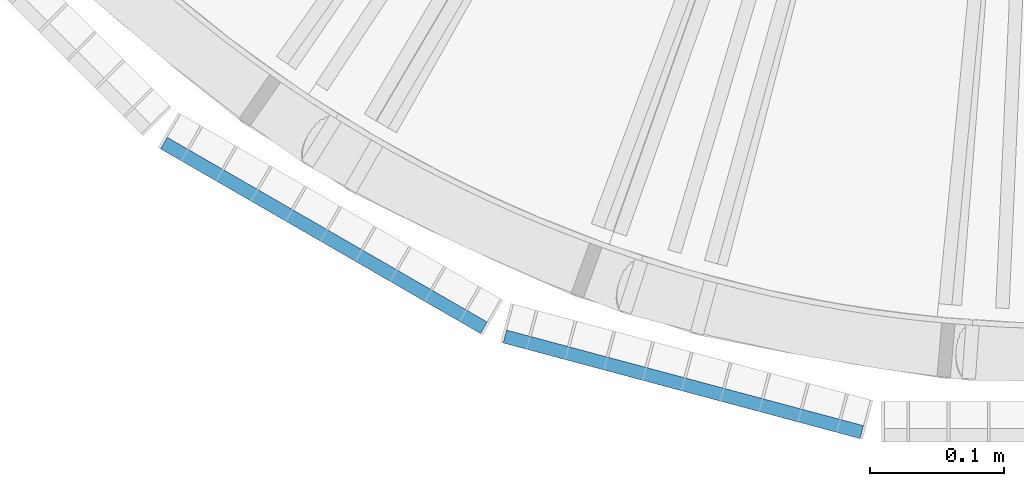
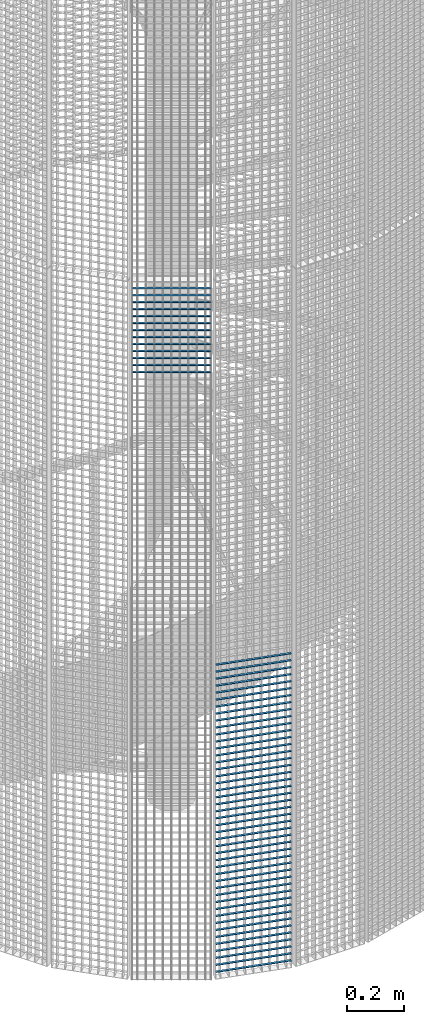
# One storey, part 170 of 1148: 58 beams, 2 elements without a shape of their own.
"""IFC2X3 building model written with IfcOpenShell, lengths in millimetres."""

from ifc_helpers import new_model, si_unit, frame, origin_with_axes, origin_2d_with_axis, place, context, subcontext, project, spatial, rectangle, extrude, material, type_object, element, aggregate, save


model = new_model("IFC2X3")

# Units and contexts
model_context = context("Model", 3, precision=1e-05, world=origin_with_axes())
body_context = subcontext(model_context, "Body", "Model", "MODEL_VIEW")
ifc_project = project(units=[si_unit("LENGTHUNIT", "METRE", prefix="MILLI"), si_unit("AREAUNIT", "SQUARE_METRE"), si_unit("VOLUMEUNIT", "CUBIC_METRE"), si_unit("MASSUNIT", "GRAM", prefix="KILO"), si_unit("TIMEUNIT", "SECOND"), si_unit("PLANEANGLEUNIT", "RADIAN"), si_unit("SOLIDANGLEUNIT", "STERADIAN"), si_unit("THERMODYNAMICTEMPERATUREUNIT", "DEGREE_CELSIUS"), si_unit("LUMINOUSINTENSITYUNIT", "LUMEN")], contexts=[model_context])

# Site, building, storey
site_placement = place(None, origin_with_axes())
site = spatial("IfcSite", under=ifc_project, at=site_placement, Name="Undefined", CompositionType="ELEMENT")
building_placement = place(site_placement, origin_with_axes())
building = spatial("IfcBuilding", under=site, at=building_placement, Name="Undefined", CompositionType="ELEMENT")
storey_placement = place(building_placement, origin_with_axes())
storey = spatial("IfcBuildingStorey", under=building, at=storey_placement, Name="Undefined", CompositionType="ELEMENT", Elevation=0.0)

# Assembly, beams
assembly_1_placement = place(storey_placement, origin_with_axes())
assembly_1 = element("IfcElementAssembly", 1, at=assembly_1_placement, inside=storey, Name="BORDURE", AssemblyPlace="NOTDEFINED", PredefinedType="NOTDEFINED")
ifc_material = material(Name="STEEL/S235JR")
beam_type = type_object("IfcBeamType", Name="PL2*10", PredefinedType="NOTDEFINED")
beam_1_placement = place(assembly_1_placement, frame((-421.483733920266, -1039.82309522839, 1350.0), z_axis=(-0.258819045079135, -0.965925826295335, 0.0), x_axis=(0.965925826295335, -0.258819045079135, 0.0)))
beam_1 = element("IfcBeam", 2, at=beam_1_placement, type_object=beam_type, material=ifc_material, Name="ENTRETOISE", context=body_context, shape_type="SweptSolid", body=[
    extrude(rectangle(XDim=2.0, YDim=10.0, at=origin_2d_with_axis()), frame((275.999999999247, 9.09494701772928e-13, 1.53210777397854e-14), z_axis=(-1.0, 0.0, 0.0), x_axis=(0.0, -1.0, 0.0)), (0.0, 0.0, 1.0), 276.0),
])
beam_2_placement = place(assembly_1_placement, frame((-421.483733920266, -1039.82309522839, 1320.0), z_axis=(-0.258819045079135, -0.965925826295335, 0.0), x_axis=(0.965925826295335, -0.258819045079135, 0.0)))
beam_2 = element("IfcBeam", 3, at=beam_2_placement, type_object=beam_type, material=ifc_material, Name="ENTRETOISE", context=body_context, shape_type="SweptSolid", body=[
    extrude(rectangle(XDim=2.0, YDim=10.0, at=origin_2d_with_axis()), frame((275.999999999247, 9.09494701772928e-13, 1.53210777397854e-14), z_axis=(-1.0, 0.0, 0.0), x_axis=(0.0, -1.0, 0.0)), (0.0, 0.0, 1.0), 276.0),
])
beam_3_placement = place(assembly_1_placement, frame((-421.483733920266, -1039.82309522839, 1290.0), z_axis=(-0.258819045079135, -0.965925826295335, 0.0), x_axis=(0.965925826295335, -0.258819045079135, 0.0)))
beam_3 = element("IfcBeam", 4, at=beam_3_placement, type_object=beam_type, material=ifc_material, Name="ENTRETOISE", context=body_context, shape_type="SweptSolid", body=[
    extrude(rectangle(XDim=2.0, YDim=10.0, at=origin_2d_with_axis()), frame((275.999999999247, 9.09494701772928e-13, 1.53210777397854e-14), z_axis=(-1.0, 0.0, 0.0), x_axis=(0.0, -1.0, 0.0)), (0.0, 0.0, 1.0), 276.0),
])
beam_4_placement = place(assembly_1_placement, frame((-421.483733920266, -1039.82309522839, 1260.0), z_axis=(-0.258819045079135, -0.965925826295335, 0.0), x_axis=(0.965925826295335, -0.258819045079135, 0.0)))
beam_4 = element("IfcBeam", 5, at=beam_4_placement, type_object=beam_type, material=ifc_material, Name="ENTRETOISE", context=body_context, shape_type="SweptSolid", body=[
    extrude(rectangle(XDim=2.0, YDim=10.0, at=origin_2d_with_axis()), frame((275.999999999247, 9.09494701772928e-13, 1.53210777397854e-14), z_axis=(-1.0, 0.0, 0.0), x_axis=(0.0, -1.0, 0.0)), (0.0, 0.0, 1.0), 276.0),
])
beam_5_placement = place(assembly_1_placement, frame((-421.483733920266, -1039.82309522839, 1230.0), z_axis=(-0.258819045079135, -0.965925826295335, 0.0), x_axis=(0.965925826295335, -0.258819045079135, 0.0)))
beam_5 = element("IfcBeam", 6, at=beam_5_placement, type_object=beam_type, material=ifc_material, Name="ENTRETOISE", context=body_context, shape_type="SweptSolid", body=[
    extrude(rectangle(XDim=2.0, YDim=10.0, at=origin_2d_with_axis()), frame((275.999999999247, 9.09494701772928e-13, 1.53210777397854e-14), z_axis=(-1.0, 0.0, 0.0), x_axis=(0.0, -1.0, 0.0)), (0.0, 0.0, 1.0), 276.0),
])
beam_6_placement = place(assembly_1_placement, frame((-421.483733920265, -1039.82309522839, 1200.0), z_axis=(-0.258819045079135, -0.965925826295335, 0.0), x_axis=(0.965925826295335, -0.258819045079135, 0.0)))
beam_6 = element("IfcBeam", 7, at=beam_6_placement, type_object=beam_type, material=ifc_material, Name="ENTRETOISE", context=body_context, shape_type="SweptSolid", body=[
    extrude(rectangle(XDim=2.0, YDim=10.0, at=origin_2d_with_axis()), frame((275.999999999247, 9.09494701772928e-13, 1.53210777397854e-14), z_axis=(-1.0, 0.0, 0.0), x_axis=(0.0, -1.0, 0.0)), (0.0, 0.0, 1.0), 276.0),
])
beam_7_placement = place(assembly_1_placement, frame((-421.483733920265, -1039.82309522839, 1170.0), z_axis=(-0.258819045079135, -0.965925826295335, 0.0), x_axis=(0.965925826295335, -0.258819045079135, 0.0)))
beam_7 = element("IfcBeam", 8, at=beam_7_placement, type_object=beam_type, material=ifc_material, Name="ENTRETOISE", context=body_context, shape_type="SweptSolid", body=[
    extrude(rectangle(XDim=2.0, YDim=10.0, at=origin_2d_with_axis()), frame((275.999999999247, 9.09494701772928e-13, 1.53210777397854e-14), z_axis=(-1.0, 0.0, 0.0), x_axis=(0.0, -1.0, 0.0)), (0.0, 0.0, 1.0), 276.0),
])
beam_8_placement = place(assembly_1_placement, frame((-421.483733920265, -1039.82309522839, 1140.0), z_axis=(-0.258819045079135, -0.965925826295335, 0.0), x_axis=(0.965925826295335, -0.258819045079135, 0.0)))
beam_8 = element("IfcBeam", 9, at=beam_8_placement, type_object=beam_type, material=ifc_material, Name="ENTRETOISE", context=body_context, shape_type="SweptSolid", body=[
    extrude(rectangle(XDim=2.0, YDim=10.0, at=origin_2d_with_axis()), frame((275.999999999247, 9.09494701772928e-13, 1.53210777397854e-14), z_axis=(-1.0, 0.0, 0.0), x_axis=(0.0, -1.0, 0.0)), (0.0, 0.0, 1.0), 276.0),
])
beam_9_placement = place(assembly_1_placement, frame((-421.483733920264, -1039.82309522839, 719.999999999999), z_axis=(-0.258819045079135, -0.965925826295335, 0.0), x_axis=(0.965925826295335, -0.258819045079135, 0.0)))
beam_9 = element("IfcBeam", 10, at=beam_9_placement, type_object=beam_type, material=ifc_material, Name="ENTRETOISE", context=body_context, shape_type="SweptSolid", body=[
    extrude(rectangle(XDim=2.0, YDim=10.0, at=origin_2d_with_axis()), frame((275.999999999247, 9.09494701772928e-13, 1.53210777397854e-14), z_axis=(-1.0, 0.0, 0.0), x_axis=(0.0, -1.0, 0.0)), (0.0, 0.0, 1.0), 276.0),
])
beam_10_placement = place(assembly_1_placement, frame((-421.483733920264, -1039.82309522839, 689.999999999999), z_axis=(-0.258819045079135, -0.965925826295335, 0.0), x_axis=(0.965925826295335, -0.258819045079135, 0.0)))
beam_10 = element("IfcBeam", 11, at=beam_10_placement, type_object=beam_type, material=ifc_material, Name="ENTRETOISE", context=body_context, shape_type="SweptSolid", body=[
    extrude(rectangle(XDim=2.0, YDim=10.0, at=origin_2d_with_axis()), frame((275.999999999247, 9.09494701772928e-13, 1.53210777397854e-14), z_axis=(-1.0, 0.0, 0.0), x_axis=(0.0, -1.0, 0.0)), (0.0, 0.0, 1.0), 276.0),
])
beam_11_placement = place(assembly_1_placement, frame((-421.483733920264, -1039.82309522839, 749.999999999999), z_axis=(-0.258819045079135, -0.965925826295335, 0.0), x_axis=(0.965925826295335, -0.258819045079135, 0.0)))
beam_11 = element("IfcBeam", 12, at=beam_11_placement, type_object=beam_type, material=ifc_material, Name="ENTRETOISE", context=body_context, shape_type="SweptSolid", body=[
    extrude(rectangle(XDim=2.0, YDim=10.0, at=origin_2d_with_axis()), frame((275.999999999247, 9.09494701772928e-13, 1.53210777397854e-14), z_axis=(-1.0, 0.0, 0.0), x_axis=(0.0, -1.0, 0.0)), (0.0, 0.0, 1.0), 276.0),
])
beam_12_placement = place(assembly_1_placement, frame((-421.483733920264, -1039.82309522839, 659.999999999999), z_axis=(-0.258819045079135, -0.965925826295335, 0.0), x_axis=(0.965925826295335, -0.258819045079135, 0.0)))
beam_12 = element("IfcBeam", 13, at=beam_12_placement, type_object=beam_type, material=ifc_material, Name="ENTRETOISE", context=body_context, shape_type="SweptSolid", body=[
    extrude(rectangle(XDim=2.0, YDim=10.0, at=origin_2d_with_axis()), frame((275.999999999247, 9.09494701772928e-13, 1.53210777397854e-14), z_axis=(-1.0, 0.0, 0.0), x_axis=(0.0, -1.0, 0.0)), (0.0, 0.0, 1.0), 276.0),
])
beam_13_placement = place(assembly_1_placement, frame((-421.483733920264, -1039.82309522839, 629.999999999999), z_axis=(-0.258819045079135, -0.965925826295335, 0.0), x_axis=(0.965925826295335, -0.258819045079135, 0.0)))
beam_13 = element("IfcBeam", 14, at=beam_13_placement, type_object=beam_type, material=ifc_material, Name="ENTRETOISE", context=body_context, shape_type="SweptSolid", body=[
    extrude(rectangle(XDim=2.0, YDim=10.0, at=origin_2d_with_axis()), frame((275.999999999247, 9.09494701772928e-13, 1.53210777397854e-14), z_axis=(-1.0, 0.0, 0.0), x_axis=(0.0, -1.0, 0.0)), (0.0, 0.0, 1.0), 276.0),
])
beam_14_placement = place(assembly_1_placement, frame((-421.483733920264, -1039.82309522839, 779.999999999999), z_axis=(-0.258819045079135, -0.965925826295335, 0.0), x_axis=(0.965925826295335, -0.258819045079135, 0.0)))
beam_14 = element("IfcBeam", 15, at=beam_14_placement, type_object=beam_type, material=ifc_material, Name="ENTRETOISE", context=body_context, shape_type="SweptSolid", body=[
    extrude(rectangle(XDim=2.0, YDim=10.0, at=origin_2d_with_axis()), frame((275.999999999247, 9.09494701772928e-13, 1.53210777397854e-14), z_axis=(-1.0, 0.0, 0.0), x_axis=(0.0, -1.0, 0.0)), (0.0, 0.0, 1.0), 276.0),
])
beam_15_placement = place(assembly_1_placement, frame((-421.483733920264, -1039.82309522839, 599.999999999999), z_axis=(-0.258819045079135, -0.965925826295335, 0.0), x_axis=(0.965925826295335, -0.258819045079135, 0.0)))
beam_15 = element("IfcBeam", 16, at=beam_15_placement, type_object=beam_type, material=ifc_material, Name="ENTRETOISE", context=body_context, shape_type="SweptSolid", body=[
    extrude(rectangle(XDim=2.0, YDim=10.0, at=origin_2d_with_axis()), frame((275.999999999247, 9.09494701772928e-13, 1.53210777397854e-14), z_axis=(-1.0, 0.0, 0.0), x_axis=(0.0, -1.0, 0.0)), (0.0, 0.0, 1.0), 276.0),
])
beam_16_placement = place(assembly_1_placement, frame((-421.483733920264, -1039.82309522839, 809.999999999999), z_axis=(-0.258819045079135, -0.965925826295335, 0.0), x_axis=(0.965925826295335, -0.258819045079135, 0.0)))
beam_16 = element("IfcBeam", 17, at=beam_16_placement, type_object=beam_type, material=ifc_material, Name="ENTRETOISE", context=body_context, shape_type="SweptSolid", body=[
    extrude(rectangle(XDim=2.0, YDim=10.0, at=origin_2d_with_axis()), frame((275.999999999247, 9.09494701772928e-13, 1.53210777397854e-14), z_axis=(-1.0, 0.0, 0.0), x_axis=(0.0, -1.0, 0.0)), (0.0, 0.0, 1.0), 276.0),
])
beam_17_placement = place(assembly_1_placement, frame((-421.483733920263, -1039.82309522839, 569.999999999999), z_axis=(-0.258819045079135, -0.965925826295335, 0.0), x_axis=(0.965925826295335, -0.258819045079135, 0.0)))
beam_17 = element("IfcBeam", 18, at=beam_17_placement, type_object=beam_type, material=ifc_material, Name="ENTRETOISE", context=body_context, shape_type="SweptSolid", body=[
    extrude(rectangle(XDim=2.0, YDim=10.0, at=origin_2d_with_axis()), frame((275.999999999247, 9.09494701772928e-13, 1.53210777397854e-14), z_axis=(-1.0, 0.0, 0.0), x_axis=(0.0, -1.0, 0.0)), (0.0, 0.0, 1.0), 276.0),
])
beam_18_placement = place(assembly_1_placement, frame((-421.483733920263, -1039.82309522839, 539.999999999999), z_axis=(-0.258819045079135, -0.965925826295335, 0.0), x_axis=(0.965925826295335, -0.258819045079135, 0.0)))
beam_18 = element("IfcBeam", 19, at=beam_18_placement, type_object=beam_type, material=ifc_material, Name="ENTRETOISE", context=body_context, shape_type="SweptSolid", body=[
    extrude(rectangle(XDim=2.0, YDim=10.0, at=origin_2d_with_axis()), frame((275.999999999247, 9.09494701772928e-13, 1.53210777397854e-14), z_axis=(-1.0, 0.0, 0.0), x_axis=(0.0, -1.0, 0.0)), (0.0, 0.0, 1.0), 276.0),
])
beam_19_placement = place(assembly_1_placement, frame((-421.483733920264, -1039.82309522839, 839.999999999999), z_axis=(-0.258819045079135, -0.965925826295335, 0.0), x_axis=(0.965925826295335, -0.258819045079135, 0.0)))
beam_19 = element("IfcBeam", 20, at=beam_19_placement, type_object=beam_type, material=ifc_material, Name="ENTRETOISE", context=body_context, shape_type="SweptSolid", body=[
    extrude(rectangle(XDim=2.0, YDim=10.0, at=origin_2d_with_axis()), frame((275.999999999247, 9.09494701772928e-13, 1.53210777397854e-14), z_axis=(-1.0, 0.0, 0.0), x_axis=(0.0, -1.0, 0.0)), (0.0, 0.0, 1.0), 276.0),
])
beam_20_placement = place(assembly_1_placement, frame((-421.483733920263, -1039.82309522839, 509.999999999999), z_axis=(-0.258819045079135, -0.965925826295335, 0.0), x_axis=(0.965925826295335, -0.258819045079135, 0.0)))
beam_20 = element("IfcBeam", 21, at=beam_20_placement, type_object=beam_type, material=ifc_material, Name="ENTRETOISE", context=body_context, shape_type="SweptSolid", body=[
    extrude(rectangle(XDim=2.0, YDim=10.0, at=origin_2d_with_axis()), frame((275.999999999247, 9.09494701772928e-13, 1.53210777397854e-14), z_axis=(-1.0, 0.0, 0.0), x_axis=(0.0, -1.0, 0.0)), (0.0, 0.0, 1.0), 276.0),
])
beam_21_placement = place(assembly_1_placement, frame((-421.483733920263, -1039.82309522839, 479.999999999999), z_axis=(-0.258819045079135, -0.965925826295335, 0.0), x_axis=(0.965925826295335, -0.258819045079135, 0.0)))
beam_21 = element("IfcBeam", 22, at=beam_21_placement, type_object=beam_type, material=ifc_material, Name="ENTRETOISE", context=body_context, shape_type="SweptSolid", body=[
    extrude(rectangle(XDim=2.0, YDim=10.0, at=origin_2d_with_axis()), frame((275.999999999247, 9.09494701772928e-13, 1.53210777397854e-14), z_axis=(-1.0, 0.0, 0.0), x_axis=(0.0, -1.0, 0.0)), (0.0, 0.0, 1.0), 276.0),
])
beam_22_placement = place(assembly_1_placement, frame((-421.483733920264, -1039.82309522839, 869.999999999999), z_axis=(-0.258819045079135, -0.965925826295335, 0.0), x_axis=(0.965925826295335, -0.258819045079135, 0.0)))
beam_22 = element("IfcBeam", 23, at=beam_22_placement, type_object=beam_type, material=ifc_material, Name="ENTRETOISE", context=body_context, shape_type="SweptSolid", body=[
    extrude(rectangle(XDim=2.0, YDim=10.0, at=origin_2d_with_axis()), frame((275.999999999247, 9.09494701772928e-13, 1.53210777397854e-14), z_axis=(-1.0, 0.0, 0.0), x_axis=(0.0, -1.0, 0.0)), (0.0, 0.0, 1.0), 276.0),
])
beam_23_placement = place(assembly_1_placement, frame((-421.483733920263, -1039.82309522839, 449.999999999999), z_axis=(-0.258819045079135, -0.965925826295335, 0.0), x_axis=(0.965925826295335, -0.258819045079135, 0.0)))
beam_23 = element("IfcBeam", 24, at=beam_23_placement, type_object=beam_type, material=ifc_material, Name="ENTRETOISE", context=body_context, shape_type="SweptSolid", body=[
    extrude(rectangle(XDim=2.0, YDim=10.0, at=origin_2d_with_axis()), frame((275.999999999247, 9.09494701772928e-13, 1.53210777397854e-14), z_axis=(-1.0, 0.0, 0.0), x_axis=(0.0, -1.0, 0.0)), (0.0, 0.0, 1.0), 276.0),
])
beam_24_placement = place(assembly_1_placement, frame((-421.483733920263, -1039.82309522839, 419.999999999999), z_axis=(-0.258819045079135, -0.965925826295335, 0.0), x_axis=(0.965925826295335, -0.258819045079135, 0.0)))
beam_24 = element("IfcBeam", 25, at=beam_24_placement, type_object=beam_type, material=ifc_material, Name="ENTRETOISE", context=body_context, shape_type="SweptSolid", body=[
    extrude(rectangle(XDim=2.0, YDim=10.0, at=origin_2d_with_axis()), frame((275.999999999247, 9.09494701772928e-13, 1.53210777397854e-14), z_axis=(-1.0, 0.0, 0.0), x_axis=(0.0, -1.0, 0.0)), (0.0, 0.0, 1.0), 276.0),
])
beam_25_placement = place(assembly_1_placement, frame((-421.483733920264, -1039.82309522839, 899.999999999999), z_axis=(-0.258819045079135, -0.965925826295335, 0.0), x_axis=(0.965925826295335, -0.258819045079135, 0.0)))
beam_25 = element("IfcBeam", 26, at=beam_25_placement, type_object=beam_type, material=ifc_material, Name="ENTRETOISE", context=body_context, shape_type="SweptSolid", body=[
    extrude(rectangle(XDim=2.0, YDim=10.0, at=origin_2d_with_axis()), frame((275.999999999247, 9.09494701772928e-13, 1.53210777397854e-14), z_axis=(-1.0, 0.0, 0.0), x_axis=(0.0, -1.0, 0.0)), (0.0, 0.0, 1.0), 276.0),
])
beam_26_placement = place(assembly_1_placement, frame((-421.483733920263, -1039.82309522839, 389.999999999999), z_axis=(-0.258819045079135, -0.965925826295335, 0.0), x_axis=(0.965925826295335, -0.258819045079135, 0.0)))
beam_26 = element("IfcBeam", 27, at=beam_26_placement, type_object=beam_type, material=ifc_material, Name="ENTRETOISE", context=body_context, shape_type="SweptSolid", body=[
    extrude(rectangle(XDim=2.0, YDim=10.0, at=origin_2d_with_axis()), frame((275.999999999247, 9.09494701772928e-13, 1.53210777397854e-14), z_axis=(-1.0, 0.0, 0.0), x_axis=(0.0, -1.0, 0.0)), (0.0, 0.0, 1.0), 276.0),
])
beam_27_placement = place(assembly_1_placement, frame((-421.483733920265, -1039.82309522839, 929.999999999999), z_axis=(-0.258819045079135, -0.965925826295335, 0.0), x_axis=(0.965925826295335, -0.258819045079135, 0.0)))
beam_27 = element("IfcBeam", 28, at=beam_27_placement, type_object=beam_type, material=ifc_material, Name="ENTRETOISE", context=body_context, shape_type="SweptSolid", body=[
    extrude(rectangle(XDim=2.0, YDim=10.0, at=origin_2d_with_axis()), frame((275.999999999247, 9.09494701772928e-13, 1.53210777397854e-14), z_axis=(-1.0, 0.0, 0.0), x_axis=(0.0, -1.0, 0.0)), (0.0, 0.0, 1.0), 276.0),
])
beam_28_placement = place(assembly_1_placement, frame((-421.483733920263, -1039.82309522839, 359.999999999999), z_axis=(-0.258819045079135, -0.965925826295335, 0.0), x_axis=(0.965925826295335, -0.258819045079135, 0.0)))
beam_28 = element("IfcBeam", 29, at=beam_28_placement, type_object=beam_type, material=ifc_material, Name="ENTRETOISE", context=body_context, shape_type="SweptSolid", body=[
    extrude(rectangle(XDim=2.0, YDim=10.0, at=origin_2d_with_axis()), frame((275.999999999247, 9.09494701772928e-13, 1.53210777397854e-14), z_axis=(-1.0, 0.0, 0.0), x_axis=(0.0, -1.0, 0.0)), (0.0, 0.0, 1.0), 276.0),
])
beam_29_placement = place(assembly_1_placement, frame((-421.483733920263, -1039.82309522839, 329.999999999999), z_axis=(-0.258819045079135, -0.965925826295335, 0.0), x_axis=(0.965925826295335, -0.258819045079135, 0.0)))
beam_29 = element("IfcBeam", 30, at=beam_29_placement, type_object=beam_type, material=ifc_material, Name="ENTRETOISE", context=body_context, shape_type="SweptSolid", body=[
    extrude(rectangle(XDim=2.0, YDim=10.0, at=origin_2d_with_axis()), frame((275.999999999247, 9.09494701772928e-13, 1.53210777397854e-14), z_axis=(-1.0, 0.0, 0.0), x_axis=(0.0, -1.0, 0.0)), (0.0, 0.0, 1.0), 276.0),
])
beam_30_placement = place(assembly_1_placement, frame((-421.483733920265, -1039.82309522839, 959.999999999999), z_axis=(-0.258819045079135, -0.965925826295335, 0.0), x_axis=(0.965925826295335, -0.258819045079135, 0.0)))
beam_30 = element("IfcBeam", 31, at=beam_30_placement, type_object=beam_type, material=ifc_material, Name="ENTRETOISE", context=body_context, shape_type="SweptSolid", body=[
    extrude(rectangle(XDim=2.0, YDim=10.0, at=origin_2d_with_axis()), frame((275.999999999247, 9.09494701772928e-13, 1.53210777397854e-14), z_axis=(-1.0, 0.0, 0.0), x_axis=(0.0, -1.0, 0.0)), (0.0, 0.0, 1.0), 276.0),
])
beam_31_placement = place(assembly_1_placement, frame((-421.483733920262, -1039.82309522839, 299.999999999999), z_axis=(-0.258819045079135, -0.965925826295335, 0.0), x_axis=(0.965925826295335, -0.258819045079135, 0.0)))
beam_31 = element("IfcBeam", 32, at=beam_31_placement, type_object=beam_type, material=ifc_material, Name="ENTRETOISE", context=body_context, shape_type="SweptSolid", body=[
    extrude(rectangle(XDim=2.0, YDim=10.0, at=origin_2d_with_axis()), frame((275.999999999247, 9.09494701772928e-13, 1.53210777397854e-14), z_axis=(-1.0, 0.0, 0.0), x_axis=(0.0, -1.0, 0.0)), (0.0, 0.0, 1.0), 276.0),
])
beam_32_placement = place(assembly_1_placement, frame((-421.483733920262, -1039.82309522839, 269.999999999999), z_axis=(-0.258819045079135, -0.965925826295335, 0.0), x_axis=(0.965925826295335, -0.258819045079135, 0.0)))
beam_32 = element("IfcBeam", 33, at=beam_32_placement, type_object=beam_type, material=ifc_material, Name="ENTRETOISE", context=body_context, shape_type="SweptSolid", body=[
    extrude(rectangle(XDim=2.0, YDim=10.0, at=origin_2d_with_axis()), frame((275.999999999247, 9.09494701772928e-13, 1.53210777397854e-14), z_axis=(-1.0, 0.0, 0.0), x_axis=(0.0, -1.0, 0.0)), (0.0, 0.0, 1.0), 276.0),
])
beam_33_placement = place(assembly_1_placement, frame((-421.483733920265, -1039.82309522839, 989.999999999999), z_axis=(-0.258819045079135, -0.965925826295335, 0.0), x_axis=(0.965925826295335, -0.258819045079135, 0.0)))
beam_33 = element("IfcBeam", 34, at=beam_33_placement, type_object=beam_type, material=ifc_material, Name="ENTRETOISE", context=body_context, shape_type="SweptSolid", body=[
    extrude(rectangle(XDim=2.0, YDim=10.0, at=origin_2d_with_axis()), frame((275.999999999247, 9.09494701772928e-13, 1.53210777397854e-14), z_axis=(-1.0, 0.0, 0.0), x_axis=(0.0, -1.0, 0.0)), (0.0, 0.0, 1.0), 276.0),
])
beam_34_placement = place(assembly_1_placement, frame((-421.483733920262, -1039.82309522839, 239.999999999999), z_axis=(-0.258819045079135, -0.965925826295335, 0.0), x_axis=(0.965925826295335, -0.258819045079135, 0.0)))
beam_34 = element("IfcBeam", 35, at=beam_34_placement, type_object=beam_type, material=ifc_material, Name="ENTRETOISE", context=body_context, shape_type="SweptSolid", body=[
    extrude(rectangle(XDim=2.0, YDim=10.0, at=origin_2d_with_axis()), frame((275.999999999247, 9.09494701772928e-13, 1.53210777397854e-14), z_axis=(-1.0, 0.0, 0.0), x_axis=(0.0, -1.0, 0.0)), (0.0, 0.0, 1.0), 276.0),
])
beam_35_placement = place(assembly_1_placement, frame((-421.483733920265, -1039.82309522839, 1020.0), z_axis=(-0.258819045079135, -0.965925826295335, 0.0), x_axis=(0.965925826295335, -0.258819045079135, 0.0)))
beam_35 = element("IfcBeam", 36, at=beam_35_placement, type_object=beam_type, material=ifc_material, Name="ENTRETOISE", context=body_context, shape_type="SweptSolid", body=[
    extrude(rectangle(XDim=2.0, YDim=10.0, at=origin_2d_with_axis()), frame((275.999999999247, 9.09494701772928e-13, 1.53210777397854e-14), z_axis=(-1.0, 0.0, 0.0), x_axis=(0.0, -1.0, 0.0)), (0.0, 0.0, 1.0), 276.0),
])
beam_36_placement = place(assembly_1_placement, frame((-421.483733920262, -1039.82309522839, 209.999999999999), z_axis=(-0.258819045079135, -0.965925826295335, 0.0), x_axis=(0.965925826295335, -0.258819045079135, 0.0)))
beam_36 = element("IfcBeam", 37, at=beam_36_placement, type_object=beam_type, material=ifc_material, Name="ENTRETOISE", context=body_context, shape_type="SweptSolid", body=[
    extrude(rectangle(XDim=2.0, YDim=10.0, at=origin_2d_with_axis()), frame((275.999999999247, 9.09494701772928e-13, 1.53210777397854e-14), z_axis=(-1.0, 0.0, 0.0), x_axis=(0.0, -1.0, 0.0)), (0.0, 0.0, 1.0), 276.0),
])
beam_37_placement = place(assembly_1_placement, frame((-421.483733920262, -1039.82309522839, 179.999999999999), z_axis=(-0.258819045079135, -0.965925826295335, 0.0), x_axis=(0.965925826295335, -0.258819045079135, 0.0)))
beam_37 = element("IfcBeam", 38, at=beam_37_placement, type_object=beam_type, material=ifc_material, Name="ENTRETOISE", context=body_context, shape_type="SweptSolid", body=[
    extrude(rectangle(XDim=2.0, YDim=10.0, at=origin_2d_with_axis()), frame((275.999999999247, 9.09494701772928e-13, 1.53210777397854e-14), z_axis=(-1.0, 0.0, 0.0), x_axis=(0.0, -1.0, 0.0)), (0.0, 0.0, 1.0), 276.0),
])
beam_38_placement = place(assembly_1_placement, frame((-421.483733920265, -1039.82309522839, 1050.0), z_axis=(-0.258819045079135, -0.965925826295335, 0.0), x_axis=(0.965925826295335, -0.258819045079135, 0.0)))
beam_38 = element("IfcBeam", 39, at=beam_38_placement, type_object=beam_type, material=ifc_material, Name="ENTRETOISE", context=body_context, shape_type="SweptSolid", body=[
    extrude(rectangle(XDim=2.0, YDim=10.0, at=origin_2d_with_axis()), frame((275.999999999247, 9.09494701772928e-13, 1.53210777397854e-14), z_axis=(-1.0, 0.0, 0.0), x_axis=(0.0, -1.0, 0.0)), (0.0, 0.0, 1.0), 276.0),
])
beam_39_placement = place(assembly_1_placement, frame((-421.483733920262, -1039.82309522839, 149.999999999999), z_axis=(-0.258819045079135, -0.965925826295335, 0.0), x_axis=(0.965925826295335, -0.258819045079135, 0.0)))
beam_39 = element("IfcBeam", 40, at=beam_39_placement, type_object=beam_type, material=ifc_material, Name="ENTRETOISE", context=body_context, shape_type="SweptSolid", body=[
    extrude(rectangle(XDim=2.0, YDim=10.0, at=origin_2d_with_axis()), frame((275.999999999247, 9.09494701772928e-13, 1.53210777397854e-14), z_axis=(-1.0, 0.0, 0.0), x_axis=(0.0, -1.0, 0.0)), (0.0, 0.0, 1.0), 276.0),
])
beam_40_placement = place(assembly_1_placement, frame((-421.483733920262, -1039.82309522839, 119.999999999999), z_axis=(-0.258819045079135, -0.965925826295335, 0.0), x_axis=(0.965925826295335, -0.258819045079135, 0.0)))
beam_40 = element("IfcBeam", 41, at=beam_40_placement, type_object=beam_type, material=ifc_material, Name="ENTRETOISE", context=body_context, shape_type="SweptSolid", body=[
    extrude(rectangle(XDim=2.0, YDim=10.0, at=origin_2d_with_axis()), frame((275.999999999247, 9.09494701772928e-13, 1.53210777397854e-14), z_axis=(-1.0, 0.0, 0.0), x_axis=(0.0, -1.0, 0.0)), (0.0, 0.0, 1.0), 276.0),
])
beam_41_placement = place(assembly_1_placement, frame((-421.483733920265, -1039.82309522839, 1080.0), z_axis=(-0.258819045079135, -0.965925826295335, 0.0), x_axis=(0.965925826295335, -0.258819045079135, 0.0)))
beam_41 = element("IfcBeam", 42, at=beam_41_placement, type_object=beam_type, material=ifc_material, Name="ENTRETOISE", context=body_context, shape_type="SweptSolid", body=[
    extrude(rectangle(XDim=2.0, YDim=10.0, at=origin_2d_with_axis()), frame((275.999999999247, 9.09494701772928e-13, 1.53210777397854e-14), z_axis=(-1.0, 0.0, 0.0), x_axis=(0.0, -1.0, 0.0)), (0.0, 0.0, 1.0), 276.0),
])
beam_42_placement = place(assembly_1_placement, frame((-421.483733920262, -1039.82309522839, 89.9999999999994), z_axis=(-0.258819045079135, -0.965925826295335, 0.0), x_axis=(0.965925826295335, -0.258819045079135, 0.0)))
beam_42 = element("IfcBeam", 43, at=beam_42_placement, type_object=beam_type, material=ifc_material, Name="ENTRETOISE", context=body_context, shape_type="SweptSolid", body=[
    extrude(rectangle(XDim=2.0, YDim=10.0, at=origin_2d_with_axis()), frame((275.999999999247, 9.09494701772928e-13, 1.53210777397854e-14), z_axis=(-1.0, 0.0, 0.0), x_axis=(0.0, -1.0, 0.0)), (0.0, 0.0, 1.0), 276.0),
])
beam_43_placement = place(assembly_1_placement, frame((-421.483733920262, -1039.82309522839, 59.9999999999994), z_axis=(-0.258819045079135, -0.965925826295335, 0.0), x_axis=(0.965925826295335, -0.258819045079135, 0.0)))
beam_43 = element("IfcBeam", 44, at=beam_43_placement, type_object=beam_type, material=ifc_material, Name="ENTRETOISE", context=body_context, shape_type="SweptSolid", body=[
    extrude(rectangle(XDim=2.0, YDim=10.0, at=origin_2d_with_axis()), frame((275.999999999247, 9.09494701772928e-13, 1.53210777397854e-14), z_axis=(-1.0, 0.0, 0.0), x_axis=(0.0, -1.0, 0.0)), (0.0, 0.0, 1.0), 276.0),
])
beam_44_placement = place(assembly_1_placement, frame((-421.483733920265, -1039.82309522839, 1110.0), z_axis=(-0.258819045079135, -0.965925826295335, 0.0), x_axis=(0.965925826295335, -0.258819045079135, 0.0)))
beam_44 = element("IfcBeam", 45, at=beam_44_placement, type_object=beam_type, material=ifc_material, Name="ENTRETOISE", context=body_context, shape_type="SweptSolid", body=[
    extrude(rectangle(XDim=2.0, YDim=10.0, at=origin_2d_with_axis()), frame((275.999999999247, 9.09494701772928e-13, 1.53210777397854e-14), z_axis=(-1.0, 0.0, 0.0), x_axis=(0.0, -1.0, 0.0)), (0.0, 0.0, 1.0), 276.0),
])
beam_45_placement = place(assembly_1_placement, frame((-421.48373392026, -1039.82309522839, 29.9999999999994), z_axis=(-0.258819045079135, -0.965925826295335, 0.0), x_axis=(0.965925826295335, -0.258819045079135, 0.0)))
beam_45 = element("IfcBeam", 46, at=beam_45_placement, type_object=beam_type, material=ifc_material, Name="ENTRETOISE", context=body_context, shape_type="SweptSolid", body=[
    extrude(rectangle(XDim=2.0, YDim=10.0, at=origin_2d_with_axis()), frame((275.999999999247, 9.09494701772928e-13, 1.53210777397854e-14), z_axis=(-1.0, 0.0, 0.0), x_axis=(0.0, -1.0, 0.0)), (0.0, 0.0, 1.0), 276.0),
])
aggregate(assembly_1, [beam_1, beam_2, beam_3, beam_4, beam_5, beam_6, beam_7, beam_8, beam_9, beam_10, beam_11, beam_12, beam_13, beam_14, beam_15, beam_16, beam_17, beam_18, beam_19, beam_20, beam_21, beam_22, beam_23, beam_24, beam_25, beam_26, beam_27, beam_28, beam_29, beam_30, beam_31, beam_32, beam_33, beam_34, beam_35, beam_36, beam_37, beam_38, beam_39, beam_40, beam_41, beam_42, beam_43, beam_44, beam_45])

assembly_2_placement = place(storey_placement, origin_with_axes())
assembly_2 = element("IfcElementAssembly", 47, at=assembly_2_placement, inside=storey, Name="BORDURE", AssemblyPlace="NOTDEFINED", PredefinedType="NOTDEFINED")
beam_46_placement = place(assembly_2_placement, frame((-676.248044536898, -895.303964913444, 2970.0), z_axis=(-0.49999999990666, -0.866025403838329, 0.0), x_axis=(0.866025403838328, -0.49999999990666, 0.0)))
beam_46 = element("IfcBeam", 48, at=beam_46_placement, type_object=beam_type, material=ifc_material, Name="ENTRETOISE", context=body_context, shape_type="SweptSolid", body=[
    extrude(rectangle(XDim=2.0, YDim=10.0, at=origin_2d_with_axis()), frame((275.999999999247, 9.09494701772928e-13, 1.53210777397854e-14), z_axis=(-1.0, 0.0, 0.0), x_axis=(0.0, -1.0, 0.0)), (0.0, 0.0, 1.0), 276.0),
])
beam_47_placement = place(assembly_2_placement, frame((-676.248044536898, -895.303964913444, 2940.0), z_axis=(-0.49999999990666, -0.866025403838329, 0.0), x_axis=(0.866025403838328, -0.49999999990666, 0.0)))
beam_47 = element("IfcBeam", 49, at=beam_47_placement, type_object=beam_type, material=ifc_material, Name="ENTRETOISE", context=body_context, shape_type="SweptSolid", body=[
    extrude(rectangle(XDim=2.0, YDim=10.0, at=origin_2d_with_axis()), frame((275.999999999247, 9.09494701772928e-13, 1.53210777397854e-14), z_axis=(-1.0, 0.0, 0.0), x_axis=(0.0, -1.0, 0.0)), (0.0, 0.0, 1.0), 276.0),
])
beam_48_placement = place(assembly_2_placement, frame((-676.248044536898, -895.303964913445, 2910.0), z_axis=(-0.49999999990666, -0.866025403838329, 0.0), x_axis=(0.866025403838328, -0.49999999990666, 0.0)))
beam_48 = element("IfcBeam", 50, at=beam_48_placement, type_object=beam_type, material=ifc_material, Name="ENTRETOISE", context=body_context, shape_type="SweptSolid", body=[
    extrude(rectangle(XDim=2.0, YDim=10.0, at=origin_2d_with_axis()), frame((275.999999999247, 9.09494701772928e-13, 1.53210777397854e-14), z_axis=(-1.0, 0.0, 0.0), x_axis=(0.0, -1.0, 0.0)), (0.0, 0.0, 1.0), 276.0),
])
beam_49_placement = place(assembly_2_placement, frame((-676.248044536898, -895.303964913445, 2880.0), z_axis=(-0.49999999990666, -0.866025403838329, 0.0), x_axis=(0.866025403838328, -0.49999999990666, 0.0)))
beam_49 = element("IfcBeam", 51, at=beam_49_placement, type_object=beam_type, material=ifc_material, Name="ENTRETOISE", context=body_context, shape_type="SweptSolid", body=[
    extrude(rectangle(XDim=2.0, YDim=10.0, at=origin_2d_with_axis()), frame((275.999999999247, 9.09494701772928e-13, 1.53210777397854e-14), z_axis=(-1.0, 0.0, 0.0), x_axis=(0.0, -1.0, 0.0)), (0.0, 0.0, 1.0), 276.0),
])
beam_50_placement = place(assembly_2_placement, frame((-676.248044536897, -895.303964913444, 2850.0), z_axis=(-0.49999999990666, -0.866025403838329, 0.0), x_axis=(0.866025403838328, -0.49999999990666, 0.0)))
beam_50 = element("IfcBeam", 52, at=beam_50_placement, type_object=beam_type, material=ifc_material, Name="ENTRETOISE", context=body_context, shape_type="SweptSolid", body=[
    extrude(rectangle(XDim=2.0, YDim=10.0, at=origin_2d_with_axis()), frame((275.999999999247, 9.09494701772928e-13, 1.53210777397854e-14), z_axis=(-1.0, 0.0, 0.0), x_axis=(0.0, -1.0, 0.0)), (0.0, 0.0, 1.0), 276.0),
])
beam_51_placement = place(assembly_2_placement, frame((-676.248044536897, -895.303964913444, 2820.0), z_axis=(-0.49999999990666, -0.866025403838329, 0.0), x_axis=(0.866025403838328, -0.49999999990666, 0.0)))
beam_51 = element("IfcBeam", 53, at=beam_51_placement, type_object=beam_type, material=ifc_material, Name="ENTRETOISE", context=body_context, shape_type="SweptSolid", body=[
    extrude(rectangle(XDim=2.0, YDim=10.0, at=origin_2d_with_axis()), frame((275.999999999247, 9.09494701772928e-13, 1.53210777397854e-14), z_axis=(-1.0, 0.0, 0.0), x_axis=(0.0, -1.0, 0.0)), (0.0, 0.0, 1.0), 276.0),
])
beam_52_placement = place(assembly_2_placement, frame((-676.248044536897, -895.303964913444, 2790.0), z_axis=(-0.49999999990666, -0.866025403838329, 0.0), x_axis=(0.866025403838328, -0.49999999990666, 0.0)))
beam_52 = element("IfcBeam", 54, at=beam_52_placement, type_object=beam_type, material=ifc_material, Name="ENTRETOISE", context=body_context, shape_type="SweptSolid", body=[
    extrude(rectangle(XDim=2.0, YDim=10.0, at=origin_2d_with_axis()), frame((275.999999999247, 9.09494701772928e-13, 1.53210777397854e-14), z_axis=(-1.0, 0.0, 0.0), x_axis=(0.0, -1.0, 0.0)), (0.0, 0.0, 1.0), 276.0),
])
beam_53_placement = place(assembly_2_placement, frame((-676.248044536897, -895.303964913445, 2760.0), z_axis=(-0.49999999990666, -0.866025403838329, 0.0), x_axis=(0.866025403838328, -0.49999999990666, 0.0)))
beam_53 = element("IfcBeam", 55, at=beam_53_placement, type_object=beam_type, material=ifc_material, Name="ENTRETOISE", context=body_context, shape_type="SweptSolid", body=[
    extrude(rectangle(XDim=2.0, YDim=10.0, at=origin_2d_with_axis()), frame((275.999999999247, 9.09494701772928e-13, 1.53210777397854e-14), z_axis=(-1.0, 0.0, 0.0), x_axis=(0.0, -1.0, 0.0)), (0.0, 0.0, 1.0), 276.0),
])
beam_54_placement = place(assembly_2_placement, frame((-676.248044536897, -895.303964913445, 2730.0), z_axis=(-0.49999999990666, -0.866025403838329, 0.0), x_axis=(0.866025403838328, -0.49999999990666, 0.0)))
beam_54 = element("IfcBeam", 56, at=beam_54_placement, type_object=beam_type, material=ifc_material, Name="ENTRETOISE", context=body_context, shape_type="SweptSolid", body=[
    extrude(rectangle(XDim=2.0, YDim=10.0, at=origin_2d_with_axis()), frame((275.999999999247, 9.09494701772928e-13, 1.53210777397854e-14), z_axis=(-1.0, 0.0, 0.0), x_axis=(0.0, -1.0, 0.0)), (0.0, 0.0, 1.0), 276.0),
])
beam_55_placement = place(assembly_2_placement, frame((-676.248044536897, -895.303964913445, 2700.0), z_axis=(-0.49999999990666, -0.866025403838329, 0.0), x_axis=(0.866025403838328, -0.49999999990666, 0.0)))
beam_55 = element("IfcBeam", 57, at=beam_55_placement, type_object=beam_type, material=ifc_material, Name="ENTRETOISE", context=body_context, shape_type="SweptSolid", body=[
    extrude(rectangle(XDim=2.0, YDim=10.0, at=origin_2d_with_axis()), frame((275.999999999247, 9.09494701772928e-13, 1.53210777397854e-14), z_axis=(-1.0, 0.0, 0.0), x_axis=(0.0, -1.0, 0.0)), (0.0, 0.0, 1.0), 276.0),
])
beam_56_placement = place(assembly_2_placement, frame((-676.248044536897, -895.303964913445, 2670.0), z_axis=(-0.49999999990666, -0.866025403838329, 0.0), x_axis=(0.866025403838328, -0.49999999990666, 0.0)))
beam_56 = element("IfcBeam", 58, at=beam_56_placement, type_object=beam_type, material=ifc_material, Name="ENTRETOISE", context=body_context, shape_type="SweptSolid", body=[
    extrude(rectangle(XDim=2.0, YDim=10.0, at=origin_2d_with_axis()), frame((275.999999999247, 9.09494701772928e-13, 1.53210777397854e-14), z_axis=(-1.0, 0.0, 0.0), x_axis=(0.0, -1.0, 0.0)), (0.0, 0.0, 1.0), 276.0),
])
beam_57_placement = place(assembly_2_placement, frame((-676.248044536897, -895.303964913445, 2640.0), z_axis=(-0.49999999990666, -0.866025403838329, 0.0), x_axis=(0.866025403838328, -0.49999999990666, 0.0)))
beam_57 = element("IfcBeam", 59, at=beam_57_placement, type_object=beam_type, material=ifc_material, Name="ENTRETOISE", context=body_context, shape_type="SweptSolid", body=[
    extrude(rectangle(XDim=2.0, YDim=10.0, at=origin_2d_with_axis()), frame((275.999999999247, 9.09494701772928e-13, 1.53210777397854e-14), z_axis=(-1.0, 0.0, 0.0), x_axis=(0.0, -1.0, 0.0)), (0.0, 0.0, 1.0), 276.0),
])
beam_58_placement = place(assembly_2_placement, frame((-676.248044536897, -895.303964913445, 2610.0), z_axis=(-0.49999999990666, -0.866025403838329, 0.0), x_axis=(0.866025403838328, -0.49999999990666, 0.0)))
beam_58 = element("IfcBeam", 60, at=beam_58_placement, type_object=beam_type, material=ifc_material, Name="ENTRETOISE", context=body_context, shape_type="SweptSolid", body=[
    extrude(rectangle(XDim=2.0, YDim=10.0, at=origin_2d_with_axis()), frame((275.999999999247, 9.09494701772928e-13, 1.53210777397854e-14), z_axis=(-1.0, 0.0, 0.0), x_axis=(0.0, -1.0, 0.0)), (0.0, 0.0, 1.0), 276.0),
])
aggregate(assembly_2, [beam_46, beam_47, beam_48, beam_49, beam_50, beam_51, beam_52, beam_53, beam_54, beam_55, beam_56, beam_57, beam_58])

save(model, "model.ifc")
